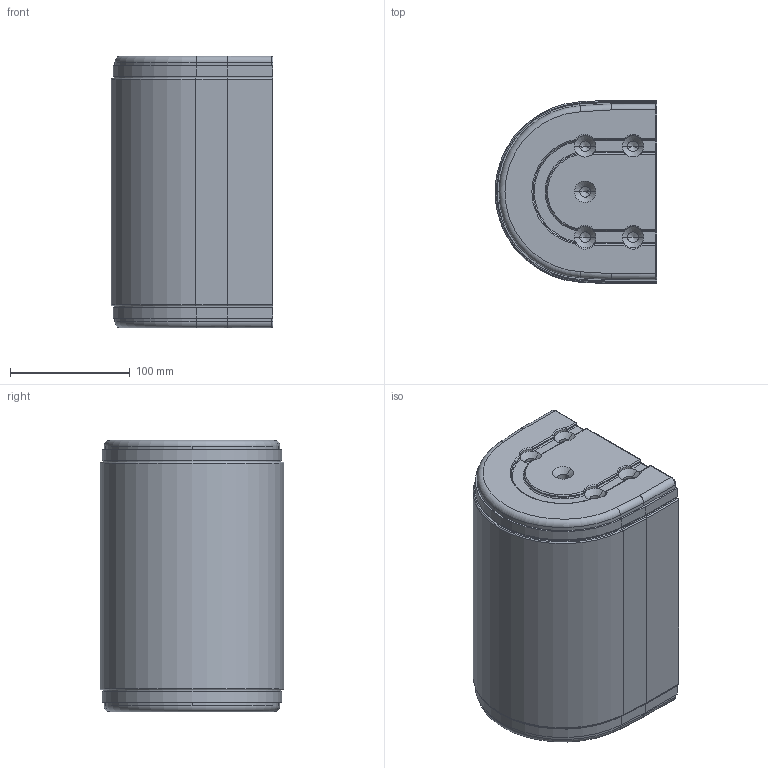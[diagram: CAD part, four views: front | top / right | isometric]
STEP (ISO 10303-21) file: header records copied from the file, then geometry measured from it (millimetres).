
FILE_DESCRIPTION (( 'STEP AP214' ), '1' );
FILE_NAME ('F2 750 R.step', '2017-04-05T07:34:54', ( '' ), ( '' ), 'SwSTEP 2.0', 'SolidWorks 2015', '' );
FILE_SCHEMA (( 'AUTOMOTIVE_DESIGN' ));
Length unit declared in the file: millimetre
Products named in the file (1): F2 750 R
Bounding box: 135.3 x 153.4 x 227 mm (x, y, z)
Volume: 4041315.4 mm3; surface area: 154658.5 mm2
Topology: 1 solids, 1 shells, 273 faces, 679 edges, 382 vertices
Faces by surface type: cylinder 120, plane 65, torus 40, cone 40, sphere 8
Entity records: 8646 total; most frequent: CARTESIAN_POINT 1843, DIRECTION 1385, ORIENTED_EDGE 1302, EDGE_CURVE 651, AXIS2_PLACEMENT_3D 530, VERTEX_POINT 382, VECTOR 325, LINE 325
